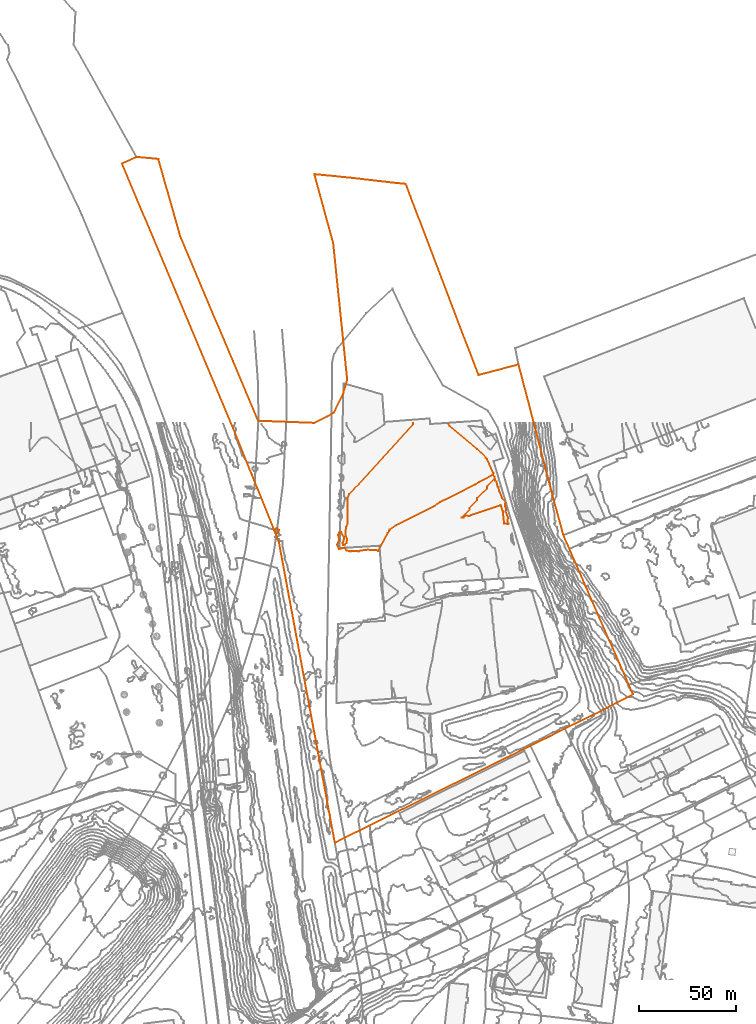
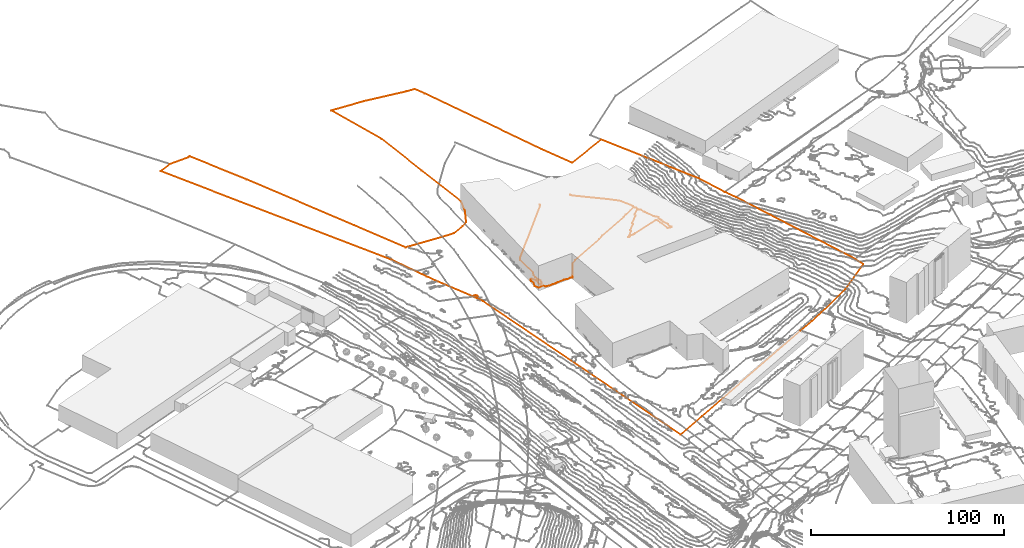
# Not in any storey, part 315 of 419: 2 proxies.
"""IFC2X3 model written with IfcOpenShell, lengths in metres."""

from ifc_helpers import new_model, entity, si_unit, frame, origin_with_axes, place, context, subcontext, project, element, save


model = new_model("IFC2X3")

# Units and contexts
model_context = context("Model", 3, precision=1e-05, world=origin_with_axes())
body_context = subcontext(model_context, "Body", "Model", "MODEL_VIEW")
ifc_project = project(units=[si_unit("AREAUNIT", "SQUARE_METRE"), si_unit("LENGTHUNIT", "METRE")], contexts=[model_context])

# Proxies
proxy_1_placement = place(None, frame((92.4320204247, 1166.0976909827, 23.5448007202), z_axis=(0.0, 0.0, 1.0), x_axis=(1.0, 0.0, 0.0)))
element("IfcBuildingElementProxy", 1, at=proxy_1_placement, Name="Cadastre 283", ObjectType="NOTDEFINED", context=body_context, shape_type="GeometricCurveSet", body=[
    entity("IfcGeometricCurveSet", [entity("IfcPolyline", [entity("IfcCartesianPoint", [7.54, 3.2999999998, -0.2234009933]), entity("IfcCartesianPoint", [18.3300000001, 2.2999999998, 1.0898987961]), entity("IfcCartesianPoint", [18.7000000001, 2.2599999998, 1.4265987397]), entity("IfcCartesianPoint", [29.9500000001, -37.3899999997, 6.934500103]), entity("IfcCartesianPoint", [57.14, -101.7599999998, 7.4239986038]), entity("IfcCartesianPoint", [70.0900000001, -132.4199999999, 7.4765997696]), entity("IfcCartesianPoint", [91.3500000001, -133.2199999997, 7.0733000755]), entity("IfcCartesianPoint", [98.7300000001, -133.5, 7.1552992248]), entity("IfcCartesianPoint", [105.5, -130.2300000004, 7.151999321]), entity("IfcCartesianPoint", [108.9700000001, -128.0800000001, 7.1832987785]), entity("IfcCartesianPoint", [113.62, -118.75, 7.3935988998]), entity("IfcCartesianPoint", [115.8500000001, -111.1600000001, 7.4927988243]), entity("IfcCartesianPoint", [112.28, -76.3300000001, 7.2695986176]), entity("IfcCartesianPoint", [108.65, -40.96, 7.1800987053]), entity("IfcCartesianPoint", [98.9500000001, -5.5700000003, 7.139899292]), entity("IfcCartesianPoint", [99.77, -5.6399999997, 7.1007987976]), entity("IfcCartesianPoint", [117.66, -7.4000000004, 7.5751991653]), entity("IfcCartesianPoint", [141.4600000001, -10.1600000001, 7.0861990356]), entity("IfcCartesianPoint", [145.9700000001, -10.54, 7.221899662]), entity("IfcCartesianPoint", [148.3100000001, -16.7300000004, 7.3856993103]), entity("IfcCartesianPoint", [176.2000000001, -90.0200000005, 6.7387999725]), entity("IfcCartesianPoint", [183.4300000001, -108.8200000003, 7.0448989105]), entity("IfcCartesianPoint", [204.01, -103.4100000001, 11.2286995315]), entity("IfcCartesianPoint", [222.1000000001, -173.0999999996, 22.6223193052]), entity("IfcCartesianPoint", [227.04, -191.1900000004, 23.2847913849]), entity("IfcCartesianPoint", [230.0900000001, -198.1799999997, 23.1079515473]), entity("IfcCartesianPoint", [260.67, -268.1399999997, 15.7942870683]), entity("IfcCartesianPoint", [262.8400000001, -273.0999999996, 14.8306395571]), entity("IfcCartesianPoint", [247.5700000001, -281.0300000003, 9.2247992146]), entity("IfcCartesianPoint", [227.88, -290.6600000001, 7.176271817]), entity("IfcCartesianPoint", [219.0800000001, -295.1100000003, 7.2319707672]), entity("IfcCartesianPoint", [210.12, -299.5300000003, 7.2647787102]), entity("IfcCartesianPoint", [127.39, -340.54, 6.9571631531]), entity("IfcCartesianPoint", [109.4700000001, -349.4199999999, 6.8769474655]), entity("IfcCartesianPoint", [80.7300000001, -194.79, 7.47181266]), entity("IfcCartesianPoint", [78.8400000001, -190.0200000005, 7.4795518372]), entity("IfcCartesianPoint", [79.79, -190.1799999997, 7.4623474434]), entity("IfcCartesianPoint", [80.5600000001, -189.5999999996, 7.4337988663]), entity("IfcCartesianPoint", [80.6900000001, -188.6399999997, 7.3951710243]), entity("IfcCartesianPoint", [80.0800000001, -187.9000000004, 7.344159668]), entity("IfcCartesianPoint", [79.12, -187.8200000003, 7.350510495]), entity("IfcCartesianPoint", [78.4, -188.46, 7.4449431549]), entity("IfcCartesianPoint", [78.3400000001, -188.6100000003, 7.4552273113]), entity("IfcCartesianPoint", [66.77, -159.9800000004, 6.9717996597]), entity("IfcCartesianPoint", [58.2200000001, -138.7300000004, 7.6174551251]), entity("IfcCartesianPoint", [0.0, 0.0, 0.0]), entity("IfcCartesianPoint", [7.54, 3.2999999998, -0.2234009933])])]),
])
proxy_2_placement = place(None, frame((203.0920113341, 969.8976909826, 31.0), z_axis=(0.0, 0.0, 1.0), x_axis=(1.0, 0.0, 0.0)))
element("IfcBuildingElementProxy", 2, at=proxy_2_placement, Name="Contour 31.0 m", ObjectType="NOTDEFINED", context=body_context, shape_type="GeometricCurveSet", body=[
    entity("IfcGeometricCurveSet", [entity("IfcPolyline", [entity("IfcCartesianPoint", [57.2000080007, 62.5, 0.0]), entity("IfcCartesianPoint", [57.2000080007, 62.0, 0.0]), entity("IfcCartesianPoint", [57.9354917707, 61.0, 0.0]), entity("IfcCartesianPoint", [72.0000090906, 49.199998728, 0.0]), entity("IfcCartesianPoint", [76.4444629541, 45.0, 0.0]), entity("IfcCartesianPoint", [77.1111225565, 44.0, 0.0]), entity("IfcCartesianPoint", [80.333342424, 37.0, 0.0]), entity("IfcCartesianPoint", [80.000042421, 36.0, 0.0]), entity("IfcCartesianPoint", [81.0000090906, 35.0000333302, 0.0]), entity("IfcCartesianPoint", [81.2500090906, 33.0, 0.0]), entity("IfcCartesianPoint", [82.0000090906, 32.4000000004, 0.0]), entity("IfcCartesianPoint", [82.5000257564, 30.0, 0.0]), entity("IfcCartesianPoint", [83.0000090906, 29.5714285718, 0.0]), entity("IfcCartesianPoint", [83.3333381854, 28.0, 0.0]), entity("IfcCartesianPoint", [84.8888956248, 24.0, 0.0]), entity("IfcCartesianPoint", [86.7500031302, 22.0, 0.0]), entity("IfcCartesianPoint", [86.3333494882, 21.0, 0.0]), entity("IfcCartesianPoint", [86.3333494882, 20.0, 0.0]), entity("IfcCartesianPoint", [86.8000090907, 19.0, 0.0]), entity("IfcCartesianPoint", [86.7500031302, 17.0, 0.0]), entity("IfcCartesianPoint", [87.8888956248, 14.0, 0.0]), entity("IfcCartesianPoint", [87.5882463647, 12.0, 0.0]), entity("IfcCartesianPoint", [88.2142977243, 11.0, 0.0]), entity("IfcCartesianPoint", [88.0000090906, 10.6249910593, 0.0]), entity("IfcCartesianPoint", [85.9000071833, 11.0, 0.0]), entity("IfcCartesianPoint", [85.2500150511, 17.0, 0.0]), entity("IfcCartesianPoint", [84.3750180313, 20.0, 0.0]), entity("IfcCartesianPoint", [84.0000090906, 20.3750089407, 0.0]), entity("IfcCartesianPoint", [69.0000090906, 15.333333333, 0.0]), entity("IfcCartesianPoint", [68.0000090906, 14.7777730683, 0.0]), entity("IfcCartesianPoint", [66.0000090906, 14.9999000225, 0.0]), entity("IfcCartesianPoint", [65.0001090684, 14.0, 0.0]), entity("IfcCartesianPoint", [63.9999091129, 14.0, 0.0]), entity("IfcCartesianPoint", [67.9999091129, 18.0, 0.0]), entity("IfcCartesianPoint", [67.9999091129, 19.0, 0.0]), entity("IfcCartesianPoint", [71.9999091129, 23.0, 0.0]), entity("IfcCartesianPoint", [71.9999091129, 24.0, 0.0]), entity("IfcCartesianPoint", [76.9999091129, 29.0, 0.0]), entity("IfcCartesianPoint", [76.9999091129, 30.0, 0.0]), entity("IfcCartesianPoint", [80.9999091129, 34.0, 0.0]), entity("IfcCartesianPoint", [80.9999091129, 35.0, 0.0]), entity("IfcCartesianPoint", [80.0000090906, 35.9999000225, 0.0]), entity("IfcCartesianPoint", [73.0000090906, 32.333333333, 0.0]), entity("IfcCartesianPoint", [71.0000090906, 30.9999666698, 0.0]), entity("IfcCartesianPoint", [53.0000090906, 21.9999500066, 0.0]), entity("IfcCartesianPoint", [50.0000090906, 19.9999666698, 0.0]), entity("IfcCartesianPoint", [30.0000090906, 9.9999500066, 0.0]), entity("IfcCartesianPoint", [27.0000090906, 7.75, 0.0]), entity("IfcCartesianPoint", [26.8000065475, 7.0, 0.0]), entity("IfcCartesianPoint", [26.0000090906, 5.999983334, 0.0]), entity("IfcCartesianPoint", [21.0000090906, -3.139533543, 0.0]), entity("IfcCartesianPoint", [20.0000090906, -2.6451617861, 0.0]), entity("IfcCartesianPoint", [18.0000090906, -2.8196713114, 0.0]), entity("IfcCartesianPoint", [16.0000090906, -2.5000017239, 0.0]), entity("IfcCartesianPoint", [12.0000090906, -2.9574459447, 0.0]), entity("IfcCartesianPoint", [11.0000090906, -3.357141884, 0.0]), entity("IfcCartesianPoint", [9.0000090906, -3.1333358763, 0.0]), entity("IfcCartesianPoint", [7.0000090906, -3.3600006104, 0.0]), entity("IfcCartesianPoint", [4.7500090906, -3.0, 0.0]), entity("IfcCartesianPoint", [4.0000090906, -1.5000499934, 0.0]), entity("IfcCartesianPoint", [1.0000090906, -2.1666693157, 0.0]), entity("IfcCartesianPoint", [0.0, 0.0, 0.0]), entity("IfcCartesianPoint", [1.0909197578, 3.0, 0.0]), entity("IfcCartesianPoint", [0.6000116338, 5.0, 0.0]), entity("IfcCartesianPoint", [1.0000090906, 6.2000000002, 0.0]), entity("IfcCartesianPoint", [2.0000090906, 6.5000124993, 0.0]), entity("IfcCartesianPoint", [3.5000140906, 4.0, 0.0]), entity("IfcCartesianPoint", [3.4782695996, 3.0, 0.0]), entity("IfcCartesianPoint", [2.8823593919, 1.0, 0.0]), entity("IfcCartesianPoint", [3.0000090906, -0.2000000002, 0.0]), entity("IfcCartesianPoint", [4.0000090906, 0.1111134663, 0.0]), entity("IfcCartesianPoint", [4.727277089, 1.0, 0.0]), entity("IfcCartesianPoint", [5.1538575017, 3.0, 0.0]), entity("IfcCartesianPoint", [4.4166731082, 5.0, 0.0]), entity("IfcCartesianPoint", [4.333342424, 7.0, 0.0]), entity("IfcCartesianPoint", [4.6000090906, 9.0, 0.0]), entity("IfcCartesianPoint", [5.333342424, 11.0, 0.0]), entity("IfcCartesianPoint", [5.2500090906, 24.0, 0.0]), entity("IfcCartesianPoint", [6.2500090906, 26.0, 0.0]), entity("IfcCartesianPoint", [39.1428701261, 62.0, 0.0]), entity("IfcCartesianPoint", [39.1428701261, 62.5, 0.0])])]),
])

save(model, "model.ifc")
